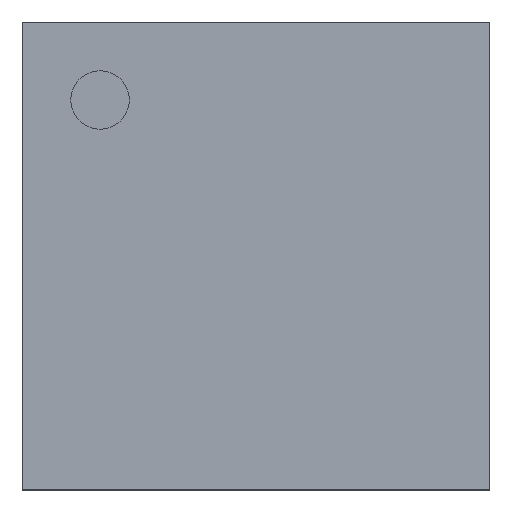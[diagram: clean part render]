
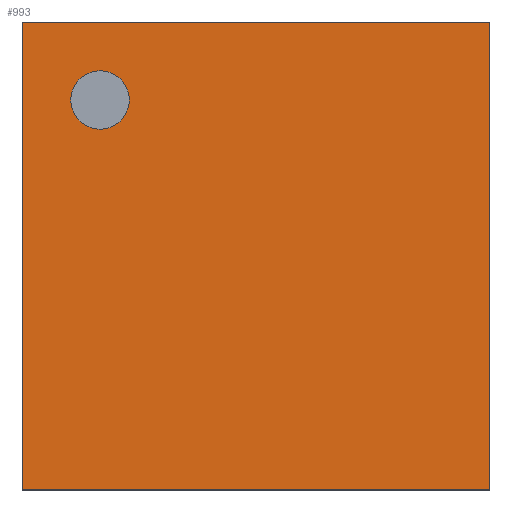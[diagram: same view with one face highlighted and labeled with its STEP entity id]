
A CAD part, top view. The second image highlights one B-rep face of the part: STEP entity #993.
In plain terms, the highlighted planar face has unit normal (0, 0, 1).
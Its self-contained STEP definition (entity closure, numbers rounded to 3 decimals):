
#929 = VERTEX_POINT('',#930);
#930 = CARTESIAN_POINT('',(0.,0.,1.081));
#945 = VERTEX_POINT('',#946);
#946 = CARTESIAN_POINT('',(0.,10.,1.081));
#952 = EDGE_CURVE('',#929,#945,#953,.T.);
#953 = LINE('',#954,#955);
#954 = CARTESIAN_POINT('',(0.,0.,1.081));
#955 = VECTOR('',#956,1.);
#956 = DIRECTION('',(-0.,1.,0.));
#975 = EDGE_CURVE('',#929,#976,#978,.T.);
#976 = VERTEX_POINT('',#977);
#977 = CARTESIAN_POINT('',(10.,0.,1.081));
#978 = LINE('',#979,#980);
#979 = CARTESIAN_POINT('',(0.,0.,1.081));
#980 = VECTOR('',#981,1.);
#981 = DIRECTION('',(1.,0.,-0.));
#993 = ADVANCED_FACE('',(#994,#1012),#1023,.T.);
#994 = FACE_BOUND('',#995,.T.);
#995 = EDGE_LOOP('',(#996,#997,#998,#1006));
#996 = ORIENTED_EDGE('',*,*,#952,.F.);
#997 = ORIENTED_EDGE('',*,*,#975,.T.);
#998 = ORIENTED_EDGE('',*,*,#999,.T.);
#999 = EDGE_CURVE('',#976,#1000,#1002,.T.);
#1000 = VERTEX_POINT('',#1001);
#1001 = CARTESIAN_POINT('',(10.,10.,1.081));
#1002 = LINE('',#1003,#1004);
#1003 = CARTESIAN_POINT('',(10.,0.,1.081));
#1004 = VECTOR('',#1005,1.);
#1005 = DIRECTION('',(-0.,1.,0.));
#1006 = ORIENTED_EDGE('',*,*,#1007,.F.);
#1007 = EDGE_CURVE('',#945,#1000,#1008,.T.);
#1008 = LINE('',#1009,#1010);
#1009 = CARTESIAN_POINT('',(0.,10.,1.081));
#1010 = VECTOR('',#1011,1.);
#1011 = DIRECTION('',(1.,0.,-0.));
#1012 = FACE_BOUND('',#1013,.T.);
#1013 = EDGE_LOOP('',(#1014));
#1014 = ORIENTED_EDGE('',*,*,#1015,.F.);
#1015 = EDGE_CURVE('',#1016,#1016,#1018,.T.);
#1016 = VERTEX_POINT('',#1017);
#1017 = CARTESIAN_POINT('',(2.292,8.333,1.081));
#1018 = CIRCLE('',#1019,0.625);
#1019 = AXIS2_PLACEMENT_3D('',#1020,#1021,#1022);
#1020 = CARTESIAN_POINT('',(1.667,8.333,1.081));
#1021 = DIRECTION('',(0.,0.,1.));
#1022 = DIRECTION('',(1.,0.,-0.));
#1023 = PLANE('',#1024);
#1024 = AXIS2_PLACEMENT_3D('',#1025,#1026,#1027);
#1025 = CARTESIAN_POINT('',(0.,0.,1.081));
#1026 = DIRECTION('',(0.,0.,1.));
#1027 = DIRECTION('',(1.,0.,-0.));
